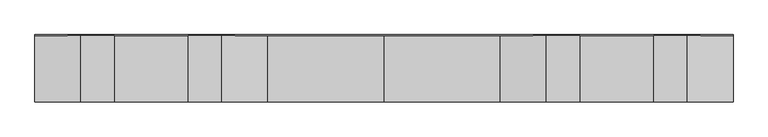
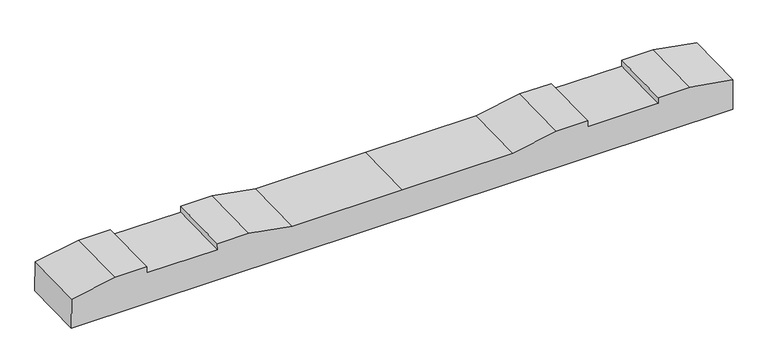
"""IFC4 building model written with IfcOpenShell, lengths in millimetres: proxy geometry, 轨枕-立面角度 : 轨枕-立面角度."""

from ifc_helpers import new_model, si_unit, frame, origin, place, context, project, spatial, polyline, outline, extrude, source, transform, mapped, element, save


def generic_models_a82ee30d(model_context):
    return source(origin(), model_context, "Body", "SweptSolid", [
        extrude(outline(polyline([(0.0, 0.0), (2099.7669328, 0.0), (2099.7669328, -100.020689), (1961.8834664, -124.5), (1861.8834664, -124.5), (1861.8834664, -104.5000001), (1637.8834664, -104.5000001), (1637.8834664, -124.5), (1537.8834664, -124.5), (1399.8834664, -100.0000001), (1049.8834664, -100.0000001), (699.8834664, -100.0000001), (561.8834664, -124.5), (461.8834664, -124.5), (461.8834664, -104.5000001), (237.8834664, -104.5000001), (237.8834664, -124.5), (137.8834664, -124.5), (0.0, -100.020689), (0.0, 0.0)])), frame((-1049.8834664, -97.719467, -106.6356215), z_axis=(0.0, 0.9997666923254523, 0.021600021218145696), x_axis=(1.0, 0.0, 0.0)), (0.0, 0.0, 1.0), 200.0),
    ])


if __name__ == "__main__":
    model = new_model("IFC4")
    model_context = context("Model", 3, world=origin())
    ifc_project = project(units=[si_unit("LENGTHUNIT", "METRE", prefix="MILLI")], contexts=[model_context])
    site = spatial("IfcSite", under=ifc_project)
    building = spatial("IfcBuilding", under=site)
    placement = place(None, origin())
    generic_models_shape = generic_models_a82ee30d(model_context)
    element("IfcBuildingElementProxy", 1, Name="轨枕-立面角度 : 轨枕-立面角度", ObjectType="轨枕-立面角度 : 轨枕-立面角度", at=placement, inside=building, context=model_context, shape_type="MappedRepresentation", body=[
        mapped(generic_models_shape, transform((0.0, 0.0, 0.0), x_axis=(1.0, 0.0, 0.0), y_axis=(0.0, 1.0, 0.0), z_axis=(0.0, 0.0, 1.0))),
    ])
    save(model, "model.ifc")
